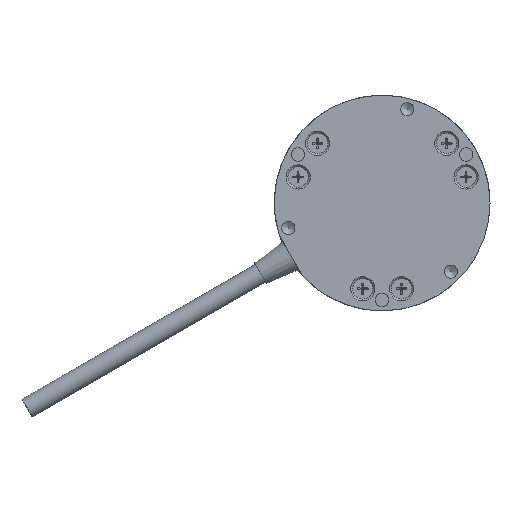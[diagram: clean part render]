
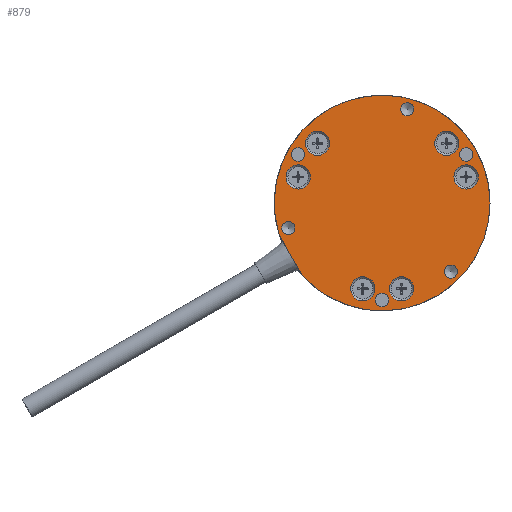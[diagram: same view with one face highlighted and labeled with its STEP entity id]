
A CAD part, front view. The second image highlights one B-rep face of the part: STEP entity #879.
In plain terms, the highlighted planar face has unit normal (0, -1, 0).
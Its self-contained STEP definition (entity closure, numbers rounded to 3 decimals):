
#410=CARTESIAN_POINT('',(5.85,0.,-15.9));
#411=VERTEX_POINT('',#410);
#412=CARTESIAN_POINT('',(3.6,0.,-15.9));
#413=DIRECTION('',(0.0,1.0,0.0));
#414=DIRECTION('',(1.0,0.0,0.0));
#415=AXIS2_PLACEMENT_3D('',#412,#413,#414);
#416=CIRCLE('',#415,2.25);
#417=EDGE_CURVE('',#411,#411,#416,.T.);
#444=CARTESIAN_POINT('',(1.25,0.,-18.0));
#445=VERTEX_POINT('',#444);
#446=CARTESIAN_POINT('',(0.0,0.,-18.0));
#447=DIRECTION('',(0.0,1.0,0.0));
#448=DIRECTION('',(1.0,0.0,0.0));
#449=AXIS2_PLACEMENT_3D('',#446,#447,#448);
#450=CIRCLE('',#449,1.25);
#451=EDGE_CURVE('',#445,#445,#450,.T.);
#475=CARTESIAN_POINT('',(-1.35,0.,-15.9));
#476=VERTEX_POINT('',#475);
#477=CARTESIAN_POINT('',(-3.6,0.,-15.9));
#478=DIRECTION('',(0.0,1.0,0.0));
#479=DIRECTION('',(1.0,0.0,0.0));
#480=AXIS2_PLACEMENT_3D('',#477,#478,#479);
#481=CIRCLE('',#480,2.25);
#482=EDGE_CURVE('',#476,#476,#481,.T.);
#495=CARTESIAN_POINT('',(14.445,0.,6.781));
#496=VERTEX_POINT('',#495);
#497=CARTESIAN_POINT('',(15.57,0.,4.832));
#498=DIRECTION('',(0.0,1.0,0.0));
#499=DIRECTION('',(-0.5,0.0,0.866));
#500=AXIS2_PLACEMENT_3D('',#497,#498,#499);
#501=CIRCLE('',#500,2.25);
#502=EDGE_CURVE('',#496,#496,#501,.T.);
#529=CARTESIAN_POINT('',(14.963,0.,10.083));
#530=VERTEX_POINT('',#529);
#531=CARTESIAN_POINT('',(15.588,0.,9.));
#532=DIRECTION('',(0.0,1.,0.0));
#533=DIRECTION('',(-0.5,0.0,0.866));
#534=AXIS2_PLACEMENT_3D('',#531,#532,#533);
#535=CIRCLE('',#534,1.25);
#536=EDGE_CURVE('',#530,#530,#535,.T.);
#552=CARTESIAN_POINT('',(10.845,0.,13.016));
#553=VERTEX_POINT('',#552);
#554=CARTESIAN_POINT('',(11.97,0.,11.068));
#555=DIRECTION('',(0.0,1.0,0.0));
#556=DIRECTION('',(-0.5,0.0,0.866));
#557=AXIS2_PLACEMENT_3D('',#554,#555,#556);
#558=CIRCLE('',#557,2.25);
#559=EDGE_CURVE('',#553,#553,#558,.T.);
#572=CARTESIAN_POINT('',(-16.695,0.,2.884));
#573=VERTEX_POINT('',#572);
#574=CARTESIAN_POINT('',(-15.57,0.,4.832));
#575=DIRECTION('',(0.0,1.0,0.0));
#576=DIRECTION('',(-0.5,0.0,-0.866));
#577=AXIS2_PLACEMENT_3D('',#574,#575,#576);
#578=CIRCLE('',#577,2.25);
#579=EDGE_CURVE('',#573,#573,#578,.T.);
#606=CARTESIAN_POINT('',(-16.213,0.,7.917));
#607=VERTEX_POINT('',#606);
#608=CARTESIAN_POINT('',(-15.588,0.,9.));
#609=DIRECTION('',(0.0,1.0,0.0));
#610=DIRECTION('',(-0.5,0.0,-0.866));
#611=AXIS2_PLACEMENT_3D('',#608,#609,#610);
#612=CIRCLE('',#611,1.25);
#613=EDGE_CURVE('',#607,#607,#612,.T.);
#629=CARTESIAN_POINT('',(-13.095,0.,9.119));
#630=VERTEX_POINT('',#629);
#631=CARTESIAN_POINT('',(-11.97,0.,11.068));
#632=DIRECTION('',(0.0,1.0,0.0));
#633=DIRECTION('',(-0.5,0.0,-0.866));
#634=AXIS2_PLACEMENT_3D('',#631,#632,#633);
#635=CIRCLE('',#634,2.25);
#636=EDGE_CURVE('',#630,#630,#635,.T.);
#795=CARTESIAN_POINT('',(16.5,0.,0.0));
#796=DIRECTION('',(0.0,-1.0,0.0));
#797=DIRECTION('',(0.0,0.0,-1.0));
#798=AXIS2_PLACEMENT_3D('',#795,#796,#797);
#799=PLANE('',#798);
#800=CARTESIAN_POINT('',(-19.11,0.,-5.901));
#801=VERTEX_POINT('',#800);
#802=CARTESIAN_POINT('',(-14.665,0.,-13.599));
#803=VERTEX_POINT('',#802);
#804=CARTESIAN_POINT('',(-19.11,0.,-5.901));
#805=DIRECTION('',(0.5,0.0,-0.866));
#806=VECTOR('',#805,8.888);
#807=LINE('',#804,#806);
#808=EDGE_CURVE('',#801,#803,#807,.T.);
#809=ORIENTED_EDGE('',*,*,#808,.T.);
#810=CARTESIAN_POINT('',(0.0,0.,0.0));
#811=DIRECTION('',(0.0,-1.0,0.0));
#812=DIRECTION('',(1.0,0.0,0.0));
#813=AXIS2_PLACEMENT_3D('',#810,#811,#812);
#814=CIRCLE('',#813,20.0);
#815=EDGE_CURVE('',#803,#801,#814,.T.);
#816=ORIENTED_EDGE('',*,*,#815,.T.);
#817=EDGE_LOOP('',(#809,#816));
#818=FACE_OUTER_BOUND('',#817,.T.);
#819=ORIENTED_EDGE('',*,*,#636,.T.);
#820=EDGE_LOOP('',(#819));
#821=FACE_BOUND('',#820,.T.);
#822=ORIENTED_EDGE('',*,*,#613,.T.);
#823=EDGE_LOOP('',(#822));
#824=FACE_BOUND('',#823,.T.);
#825=ORIENTED_EDGE('',*,*,#579,.T.);
#826=EDGE_LOOP('',(#825));
#827=FACE_BOUND('',#826,.T.);
#828=ORIENTED_EDGE('',*,*,#482,.T.);
#829=EDGE_LOOP('',(#828));
#830=FACE_BOUND('',#829,.T.);
#831=ORIENTED_EDGE('',*,*,#451,.T.);
#832=EDGE_LOOP('',(#831));
#833=FACE_BOUND('',#832,.T.);
#834=ORIENTED_EDGE('',*,*,#417,.T.);
#835=EDGE_LOOP('',(#834));
#836=FACE_BOUND('',#835,.T.);
#837=ORIENTED_EDGE('',*,*,#559,.T.);
#838=EDGE_LOOP('',(#837));
#839=FACE_BOUND('',#838,.T.);
#840=ORIENTED_EDGE('',*,*,#536,.T.);
#841=EDGE_LOOP('',(#840));
#842=FACE_BOUND('',#841,.T.);
#843=CARTESIAN_POINT('',(13.957,0.,-12.728));
#844=VERTEX_POINT('',#843);
#845=CARTESIAN_POINT('',(12.728,0.,-12.728));
#846=DIRECTION('',(0.0,1.0,0.0));
#847=DIRECTION('',(1.0,0.0,0.0));
#848=AXIS2_PLACEMENT_3D('',#845,#846,#847);
#849=CIRCLE('',#848,1.23);
#850=EDGE_CURVE('',#844,#844,#849,.T.);
#851=ORIENTED_EDGE('',*,*,#850,.T.);
#852=EDGE_LOOP('',(#851));
#853=FACE_BOUND('',#852,.T.);
#854=CARTESIAN_POINT('',(4.044,0.,18.451));
#855=VERTEX_POINT('',#854);
#856=CARTESIAN_POINT('',(4.659,0.,17.387));
#857=DIRECTION('',(0.0,1.0,0.0));
#858=DIRECTION('',(-0.5,0.0,0.866));
#859=AXIS2_PLACEMENT_3D('',#856,#857,#858);
#860=CIRCLE('',#859,1.23);
#861=EDGE_CURVE('',#855,#855,#860,.T.);
#862=ORIENTED_EDGE('',*,*,#861,.T.);
#863=EDGE_LOOP('',(#862));
#864=FACE_BOUND('',#863,.T.);
#865=CARTESIAN_POINT('',(-18.001,0.,-5.724));
#866=VERTEX_POINT('',#865);
#867=CARTESIAN_POINT('',(-17.387,0.,-4.659));
#868=DIRECTION('',(0.0,1.,0.0));
#869=DIRECTION('',(-0.5,0.0,-0.866));
#870=AXIS2_PLACEMENT_3D('',#867,#868,#869);
#871=CIRCLE('',#870,1.23);
#872=EDGE_CURVE('',#866,#866,#871,.T.);
#873=ORIENTED_EDGE('',*,*,#872,.T.);
#874=EDGE_LOOP('',(#873));
#875=FACE_BOUND('',#874,.T.);
#876=ORIENTED_EDGE('',*,*,#502,.T.);
#877=EDGE_LOOP('',(#876));
#878=FACE_BOUND('',#877,.T.);
#879=ADVANCED_FACE('',(#818,#821,#824,#827,#830,#833,#836,#839,#842,#853,#864,#875,#878),#799,.T.);
